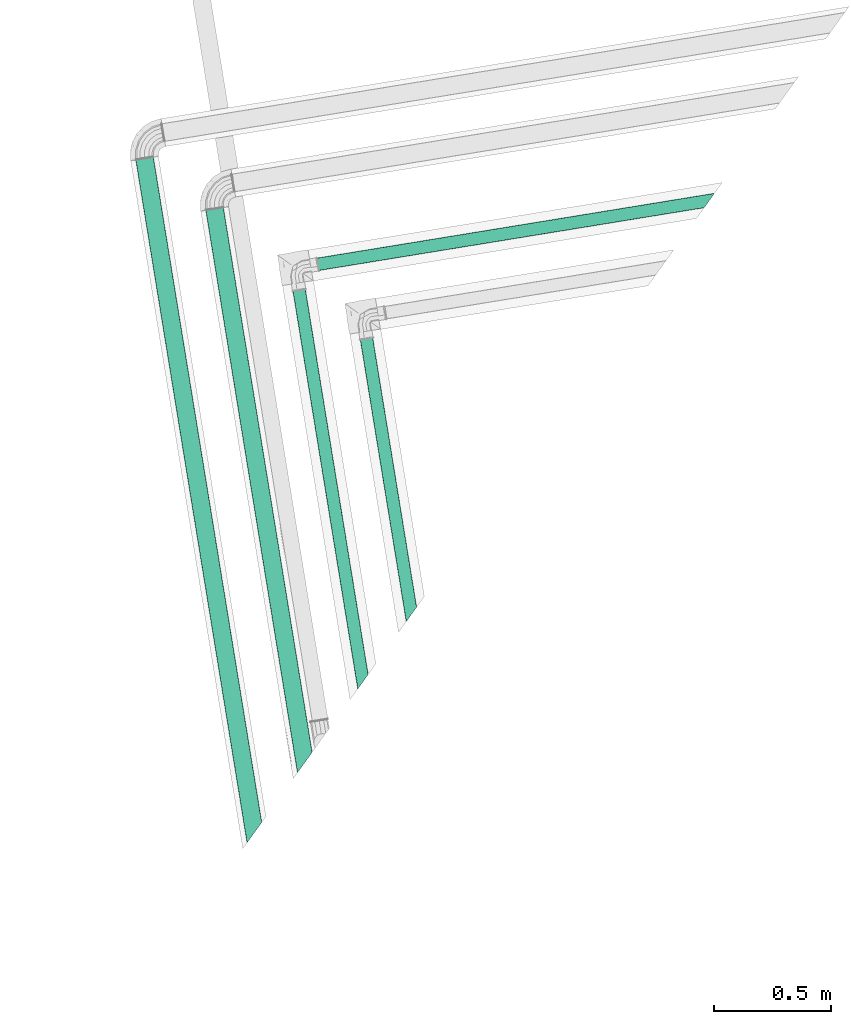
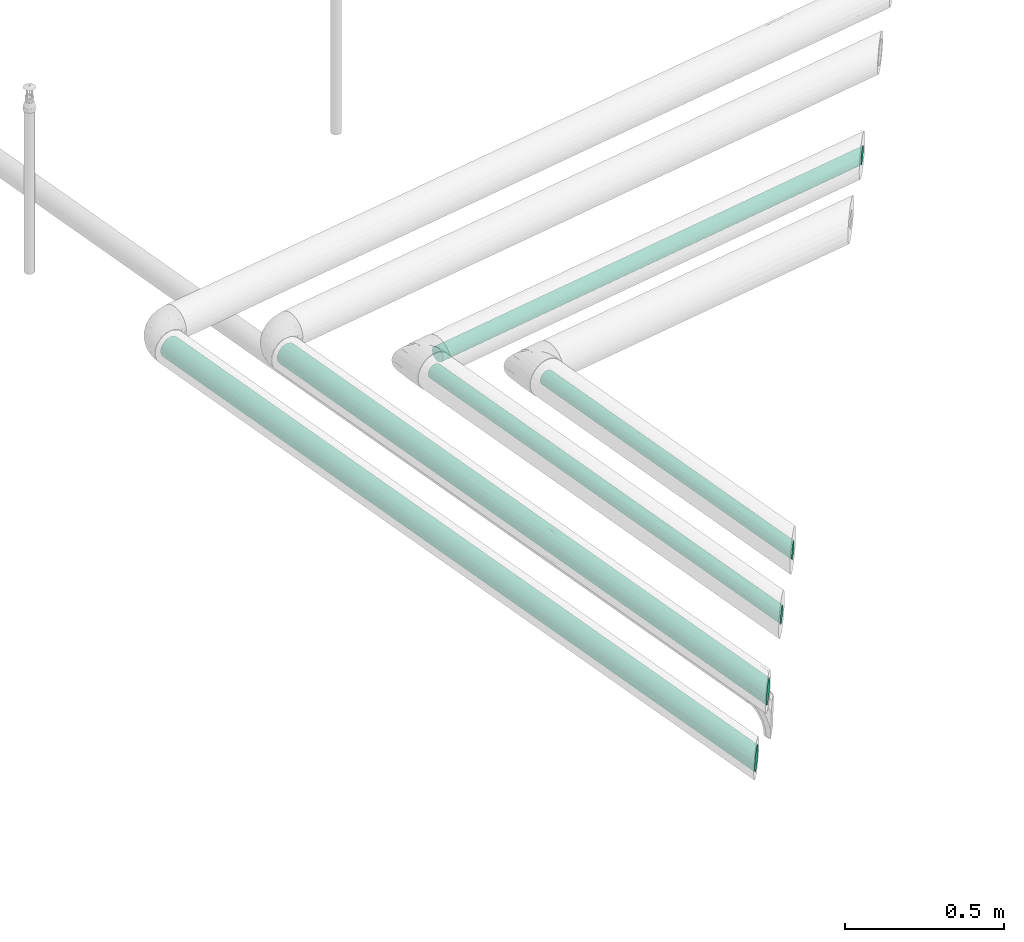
# One storey, part 41 of 46: 5 flow segments.
"""IFC2X3 building model written with IfcOpenShell, lengths in millimetres."""

from ifc_helpers import new_model, entity, si_unit, converted_unit, derived_unit, direction, frame, origin, origin_with_axes, place, context, subcontext, project, spatial, faceted_brep, material, type_object, element, save


model = new_model("IFC2X3")

# Units and contexts
model_context = context("Model", 3, precision=0.01, world=origin(), true_north=direction((6.12323399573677e-17, 1.0)))
plan_context = context("Plan", 3, precision=1e-05, world=origin_with_axes())
body_context = subcontext(model_context, "Body", "Model", "MODEL_VIEW")
ifc_project = project(units=[converted_unit("PLANEANGLEUNIT", "DEGREE", entity("IfcPositiveLengthMeasure", 0.0174532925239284), si_unit("PLANEANGLEUNIT", "RADIAN"), dimensions=[0, 0, 0, 0, 0, 0, 0]), si_unit("AREAUNIT", "SQUARE_METRE"), si_unit("LENGTHUNIT", "METRE", prefix="MILLI"), si_unit("MASSUNIT", "GRAM", prefix="KILO"), si_unit("POWERUNIT", "WATT"), si_unit("PRESSUREUNIT", "PASCAL", prefix="KILO"), si_unit("FORCEUNIT", "NEWTON", prefix="KILO"), si_unit("ELECTRICVOLTAGEUNIT", "VOLT"), si_unit("ELECTRICCURRENTUNIT", "AMPERE"), si_unit("THERMODYNAMICTEMPERATUREUNIT", "DEGREE_CELSIUS"), si_unit("TIMEUNIT", "SECOND"), si_unit("VOLUMEUNIT", "CUBIC_METRE"), derived_unit("LINEARVELOCITYUNIT", [(si_unit("LENGTHUNIT", "METRE"), 1), (si_unit("TIMEUNIT", "SECOND"), -1)]), derived_unit("VOLUMETRICFLOWRATEUNIT", [(si_unit("VOLUMEUNIT", "CUBIC_METRE"), 1), (si_unit("TIMEUNIT", "SECOND"), -1)]), derived_unit("THERMALTRANSMITTANCEUNIT", [(si_unit("POWERUNIT", "WATT"), 1), (si_unit("THERMODYNAMICTEMPERATUREUNIT", "KELVIN"), -1), (si_unit("AREAUNIT", "SQUARE_METRE"), -1)]), derived_unit("SOUNDPRESSUREUNIT", [(si_unit("PRESSUREUNIT", "PASCAL"), 1)])], contexts=[model_context, plan_context])

# Site, building, storey
site_placement = place(None, frame((-3.09682673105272e-06, 1.93776733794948e-05, 0.0), z_axis=(0.0, 0.0, 1.0), x_axis=(-0.160806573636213, 0.986985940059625, 0.0)))
site = spatial("IfcSite", under=ifc_project, at=site_placement, Name="Default", CompositionType="ELEMENT")
building_placement = place(site_placement, frame((0.0, 0.0, 0.0), z_axis=(0.0, 0.0, 1.0), x_axis=(1.0, -2.77555756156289e-17, 0.0)))
building = spatial("IfcBuilding", under=site, at=building_placement, Name="Bygning (endres i Project Information)", CompositionType="ELEMENT")
storey_placement = place(building_placement, frame((0.0, 0.0, 51360.0000000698), z_axis=(0.0, 0.0, 1.0), x_axis=(1.0, -2.77555756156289e-17, 0.0)))
storey = spatial("IfcBuildingStorey", under=building, at=storey_placement, Name="H01-Nivå D+0,36", CompositionType="ELEMENT", Elevation=51360.0000000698)

# Flow segments
ifc_material_1 = material(Name="3320.001")
pipe_segment_type_1 = type_object("IfcPipeSegmentType", Name="Pipe Types:Stålrør sveist og gjenget", PredefinedType="NOTDEFINED", material=ifc_material_1)
flow_segment_1_placement = place(storey_placement, frame((0.0, 0.0, 0.0), z_axis=(0.0, 0.0, 1.0), x_axis=(1.0, -2.77555756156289e-17, 0.0)))
element("IfcFlowSegment", 1, at=flow_segment_1_placement, inside=storey, type_object=pipe_segment_type_1, Name="Pipe Types:Stålrør sveist og gjenget", ObjectType="Pipe Types:Stålrør sveist og gjenget", context=body_context, shape_type="Brep", body=[
    faceted_brep([(997178.557751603, -346969.349156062, 3440.0), (997179.13581659, -346969.927221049, 3433.39268696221), (999606.867642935, -346969.927221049, 3433.39268696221), (999606.867642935, -346969.349156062, 3440.0), (997179.13581659, -346969.927221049, 3446.60731303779), (999606.867642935, -346969.927221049, 3446.60731303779), (997180.85244734, -346971.643851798, 3453.01386621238), (999606.867642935, -346971.643851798, 3453.01386621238), (997183.655484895, -346974.446889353, 3459.02499964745), (999606.867642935, -346974.446889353, 3459.02499964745), (997187.459760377, -346978.251164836, 3464.45806809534), (999606.867642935, -346978.251164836, 3464.45806809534), (997192.149682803, -346982.941087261, 3469.14799052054), (999606.867642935, -346982.941087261, 3469.14799052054), (997197.58275125, -346988.374155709, 3472.95226600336), (999606.867642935, -346988.374155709, 3472.95226600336), (997203.593884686, -346994.385289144, 3475.75530355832), (999606.867642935, -346994.385289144, 3475.75530355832), (997210.00043786, -347000.791842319, 3477.47193430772), (999606.867642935, -347000.791842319, 3477.47193430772), (997216.607750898, -347007.399155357, 3478.0499992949), (999606.867642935, -347007.399155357, 3478.0499992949), (997223.215063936, -347014.006468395, 3477.47193430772), (999606.867642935, -347014.006468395, 3477.47193430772), (997229.62161711, -347020.413021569, 3475.75530355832), (999606.867642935, -347020.413021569, 3475.75530355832), (997235.632750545, -347026.424155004, 3472.95226600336), (999606.867642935, -347026.424155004, 3472.95226600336), (997241.065818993, -347031.857223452, 3469.14799052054), (999606.867642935, -347031.857223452, 3469.14799052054), (997245.755741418, -347036.547145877, 3464.45806809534), (999606.867642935, -347036.547145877, 3464.45806809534), (997249.560016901, -347040.35142136, 3459.02499964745), (999606.867642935, -347040.35142136, 3459.02499964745), (997252.363054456, -347043.154458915, 3453.01386621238), (999606.867642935, -347043.154458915, 3453.01386621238), (997254.079685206, -347044.871089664, 3446.60731303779), (999606.867642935, -347044.871089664, 3446.60731303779), (997254.657750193, -347045.449154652, 3440.0), (999606.867642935, -347045.449154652, 3440.0), (997254.079685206, -347044.871089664, 3433.39268696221), (999606.867642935, -347044.871089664, 3433.39268696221), (997252.363054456, -347043.154458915, 3426.98613378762), (999606.867642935, -347043.154458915, 3426.98613378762), (997249.560016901, -347040.35142136, 3420.97500035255), (999606.867642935, -347040.35142136, 3420.97500035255), (997245.755741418, -347036.547145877, 3415.54193190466), (999606.867642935, -347036.547145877, 3415.54193190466), (997241.065818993, -347031.857223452, 3410.85200947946), (999606.867642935, -347031.857223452, 3410.85200947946), (997235.632750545, -347026.424155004, 3407.04773399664), (999606.867642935, -347026.424155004, 3407.04773399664), (997229.62161711, -347020.413021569, 3404.24469644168), (999606.867642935, -347020.413021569, 3404.24469644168), (997223.215063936, -347014.006468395, 3402.52806569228), (999606.867642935, -347014.006468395, 3402.52806569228), (997216.607750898, -347007.399155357, 3401.9500007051), (999606.867642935, -347007.399155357, 3401.9500007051), (997210.00043786, -347000.791842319, 3402.52806569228), (999606.867642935, -347000.791842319, 3402.52806569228), (997203.593884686, -346994.385289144, 3404.24469644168), (999606.867642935, -346994.385289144, 3404.24469644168), (997197.58275125, -346988.374155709, 3407.04773399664), (999606.867642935, -346988.374155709, 3407.04773399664), (997192.149682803, -346982.941087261, 3410.85200947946), (999606.867642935, -346982.941087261, 3410.85200947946), (997187.459760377, -346978.251164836, 3415.54193190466), (999606.867642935, -346978.251164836, 3415.54193190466), (997183.655484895, -346974.446889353, 3420.97500035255), (999606.867642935, -346974.446889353, 3420.97500035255), (997180.85244734, -346971.643851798, 3426.98613378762), (999606.867642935, -346971.643851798, 3426.98613378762)], [[[0, 1, 2, 3]], [[4, 0, 3, 5]], [[6, 4, 5, 7]], [[8, 6, 7, 9]], [[10, 8, 9, 11]], [[12, 10, 11, 13]], [[14, 12, 13, 15]], [[16, 14, 15, 17]], [[18, 16, 17, 19]], [[20, 18, 19, 21]], [[22, 20, 21, 23]], [[24, 22, 23, 25]], [[26, 24, 25, 27]], [[28, 26, 27, 29]], [[30, 28, 29, 31]], [[32, 30, 31, 33]], [[34, 32, 33, 35]], [[36, 34, 35, 37]], [[38, 36, 37, 39]], [[40, 38, 39, 41]], [[42, 40, 41, 43]], [[44, 42, 43, 45]], [[46, 44, 45, 47]], [[48, 46, 47, 49]], [[50, 48, 49, 51]], [[52, 50, 51, 53]], [[54, 52, 53, 55]], [[56, 54, 55, 57]], [[58, 56, 57, 59]], [[60, 58, 59, 61]], [[62, 60, 61, 63]], [[64, 62, 63, 65]], [[66, 64, 65, 67]], [[68, 66, 67, 69]], [[70, 68, 69, 71]], [[1, 70, 71, 2]], [[3, 2, 71, 69, 67, 65, 63, 61, 59, 57, 55, 53, 51, 49, 47, 45, 43, 41, 39, 37, 35, 33, 31, 29, 27, 25, 23, 21, 19, 17, 15, 13, 11, 9, 7, 5]], [[4, 6, 8, 10, 12, 14, 16, 18, 20, 22, 24, 26, 28, 30, 32, 34, 36, 38, 40, 42, 44, 46, 48, 50, 52, 54, 56, 58, 60, 62, 64, 66, 68, 70, 1, 0]]], orient=[[False], [False], [False], [False], [False], [False], [False], [False], [False], [False], [False], [False], [False], [False], [False], [False], [False], [False], [False], [False], [False], [False], [False], [False], [False], [False], [False], [False], [False], [False], [False], [False], [False], [False], [False], [False], [False], [False]]),
])
flow_segment_2_placement = place(storey_placement, frame((0.0, 0.0, 0.0), z_axis=(0.0, 0.0, 1.0), x_axis=(1.0, -2.77555756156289e-17, 0.0)))
element("IfcFlowSegment", 2, at=flow_segment_2_placement, inside=storey, type_object=pipe_segment_type_1, Name="Pipe Types:Stålrør sveist og gjenget", ObjectType="Pipe Types:Stålrør sveist og gjenget", context=body_context, shape_type="Brep", body=[
    faceted_brep([(996918.557751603, -346709.349156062, 3440.0), (996919.13581659, -346709.927221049, 3433.39268696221), (999866.867642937, -346709.927221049, 3433.39268696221), (999866.867642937, -346709.349156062, 3440.0), (996919.13581659, -346709.927221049, 3446.60731303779), (999866.867642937, -346709.927221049, 3446.60731303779), (996920.85244734, -346711.643851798, 3453.01386621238), (999866.867642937, -346711.643851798, 3453.01386621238), (996923.655484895, -346714.446889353, 3459.02499964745), (999866.867642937, -346714.446889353, 3459.02499964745), (996927.459760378, -346718.251164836, 3464.45806809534), (999866.867642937, -346718.251164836, 3464.45806809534), (996932.149682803, -346722.941087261, 3469.14799052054), (999866.867642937, -346722.941087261, 3469.14799052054), (996937.58275125, -346728.374155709, 3472.95226600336), (999866.867642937, -346728.374155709, 3472.95226600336), (996943.593884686, -346734.385289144, 3475.75530355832), (999866.867642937, -346734.385289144, 3475.75530355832), (996950.00043786, -346740.791842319, 3477.47193430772), (999866.867642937, -346740.791842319, 3477.47193430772), (996956.607750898, -346747.399155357, 3478.0499992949), (999866.867642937, -346747.399155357, 3478.0499992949), (996963.215063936, -346754.006468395, 3477.47193430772), (999866.867642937, -346754.006468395, 3477.47193430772), (996969.62161711, -346760.413021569, 3475.75530355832), (999866.867642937, -346760.413021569, 3475.75530355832), (996975.632750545, -346766.424155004, 3472.95226600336), (999866.867642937, -346766.424155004, 3472.95226600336), (996981.065818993, -346771.857223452, 3469.14799052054), (999866.867642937, -346771.857223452, 3469.14799052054), (996985.755741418, -346776.547145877, 3464.45806809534), (999866.867642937, -346776.547145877, 3464.45806809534), (996989.560016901, -346780.35142136, 3459.02499964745), (999866.867642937, -346780.35142136, 3459.02499964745), (996992.363054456, -346783.154458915, 3453.01386621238), (999866.867642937, -346783.154458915, 3453.01386621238), (996994.079685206, -346784.871089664, 3446.60731303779), (999866.867642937, -346784.871089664, 3446.60731303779), (996994.657750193, -346785.449154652, 3440.0), (999866.867642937, -346785.449154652, 3440.0), (996994.079685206, -346784.871089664, 3433.39268696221), (999866.867642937, -346784.871089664, 3433.39268696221), (996992.363054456, -346783.154458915, 3426.98613378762), (999866.867642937, -346783.154458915, 3426.98613378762), (996989.560016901, -346780.35142136, 3420.97500035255), (999866.867642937, -346780.35142136, 3420.97500035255), (996985.755741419, -346776.547145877, 3415.54193190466), (999866.867642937, -346776.547145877, 3415.54193190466), (996981.065818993, -346771.857223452, 3410.85200947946), (999866.867642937, -346771.857223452, 3410.85200947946), (996975.632750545, -346766.424155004, 3407.04773399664), (999866.867642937, -346766.424155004, 3407.04773399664), (996969.62161711, -346760.413021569, 3404.24469644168), (999866.867642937, -346760.413021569, 3404.24469644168), (996963.215063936, -346754.006468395, 3402.52806569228), (999866.867642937, -346754.006468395, 3402.52806569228), (996956.607750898, -346747.399155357, 3401.9500007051), (999866.867642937, -346747.399155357, 3401.9500007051), (996950.00043786, -346740.791842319, 3402.52806569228), (999866.867642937, -346740.791842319, 3402.52806569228), (996943.593884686, -346734.385289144, 3404.24469644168), (999866.867642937, -346734.385289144, 3404.24469644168), (996937.58275125, -346728.374155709, 3407.04773399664), (999866.867642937, -346728.374155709, 3407.04773399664), (996932.149682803, -346722.941087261, 3410.85200947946), (999866.867642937, -346722.941087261, 3410.85200947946), (996927.459760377, -346718.251164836, 3415.54193190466), (999866.867642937, -346718.251164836, 3415.54193190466), (996923.655484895, -346714.446889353, 3420.97500035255), (999866.867642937, -346714.446889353, 3420.97500035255), (996920.85244734, -346711.643851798, 3426.98613378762), (999866.867642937, -346711.643851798, 3426.98613378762)], [[[0, 1, 2, 3]], [[4, 0, 3, 5]], [[6, 4, 5, 7]], [[8, 6, 7, 9]], [[10, 8, 9, 11]], [[12, 10, 11, 13]], [[14, 12, 13, 15]], [[16, 14, 15, 17]], [[18, 16, 17, 19]], [[20, 18, 19, 21]], [[22, 20, 21, 23]], [[24, 22, 23, 25]], [[26, 24, 25, 27]], [[28, 26, 27, 29]], [[30, 28, 29, 31]], [[32, 30, 31, 33]], [[34, 32, 33, 35]], [[36, 34, 35, 37]], [[38, 36, 37, 39]], [[40, 38, 39, 41]], [[42, 40, 41, 43]], [[44, 42, 43, 45]], [[46, 44, 45, 47]], [[48, 46, 47, 49]], [[50, 48, 49, 51]], [[52, 50, 51, 53]], [[54, 52, 53, 55]], [[56, 54, 55, 57]], [[58, 56, 57, 59]], [[60, 58, 59, 61]], [[62, 60, 61, 63]], [[64, 62, 63, 65]], [[66, 64, 65, 67]], [[68, 66, 67, 69]], [[70, 68, 69, 71]], [[1, 70, 71, 2]], [[3, 2, 71, 69, 67, 65, 63, 61, 59, 57, 55, 53, 51, 49, 47, 45, 43, 41, 39, 37, 35, 33, 31, 29, 27, 25, 23, 21, 19, 17, 15, 13, 11, 9, 7, 5]], [[4, 6, 8, 10, 12, 14, 16, 18, 20, 22, 24, 26, 28, 30, 32, 34, 36, 38, 40, 42, 44, 46, 48, 50, 52, 54, 56, 58, 60, 62, 64, 66, 68, 70, 1, 0]]], orient=[[False], [False], [False], [False], [False], [False], [False], [False], [False], [False], [False], [False], [False], [False], [False], [False], [False], [False], [False], [False], [False], [False], [False], [False], [False], [False], [False], [False], [False], [False], [False], [False], [False], [False], [False], [False], [False], [False]]),
])
ifc_material_2 = material(Name="3200.003 Tur")
pipe_segment_type_2 = type_object("IfcPipeSegmentType", Name="Pipe Types:Pressfittingssystem MM", PredefinedType="NOTDEFINED", material=ifc_material_2)
flow_segment_3_placement = place(storey_placement, frame((0.0, 0.0, 0.0), z_axis=(0.0, 0.0, 1.0), x_axis=(1.0, -2.77555756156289e-17, 0.0)))
element("IfcFlowSegment", 3, at=flow_segment_3_placement, inside=storey, type_object=pipe_segment_type_2, Name="Pipe Types:Pressfittingssystem MM", ObjectType="Pipe Types:Pressfittingssystem MM", context=body_context, shape_type="Brep", body=[
    faceted_brep([(999276.40480841, -349067.196212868, 3440.0), (999276.814999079, -349067.606403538, 3435.31149919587), (999276.814999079, -347372.399155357, 3435.31149919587), (999276.40480841, -347372.399155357, 3440.0), (999276.814999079, -349067.606403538, 3444.68850080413), (999276.814999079, -347372.399155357, 3444.68850080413), (999278.033107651, -349068.82451211, 3449.23454388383), (999278.033107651, -347372.399155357, 3449.23454388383), (999280.022122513, -349070.813526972, 3453.50000002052), (999280.022122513, -347372.399155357, 3453.50000002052), (999282.721608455, -349073.513012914, 3457.35526548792), (999282.721608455, -347372.399155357, 3457.35526548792), (999286.049542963, -349076.840947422, 3460.68319999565), (999286.049542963, -347372.399155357, 3460.68319999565), (999289.90480843, -349080.696212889, 3463.38268593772), (999289.90480843, -347372.399155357, 3463.38268593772), (999294.170264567, -349084.961669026, 3465.37170079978), (999294.170264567, -347372.399155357, 3465.37170079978), (999298.716307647, -349089.507712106, 3466.58980937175), (999298.716307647, -347372.399155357, 3466.58980937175), (999303.404808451, -349094.19621291, 3467.00000004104), (999303.404808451, -347372.399155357, 3467.00000004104), (999308.093309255, -349098.884713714, 3466.58980937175), (999308.093309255, -347372.399155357, 3466.58980937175), (999312.639352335, -349103.430756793, 3465.37170079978), (999312.639352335, -347372.399155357, 3465.37170079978), (999316.904808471, -349107.69621293, 3463.38268593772), (999316.904808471, -347372.399155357, 3463.38268593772), (999320.760073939, -349111.551478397, 3460.68319999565), (999320.760073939, -347372.399155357, 3460.68319999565), (999324.088008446, -349114.879412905, 3457.35526548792), (999324.088008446, -347372.399155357, 3457.35526548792), (999326.787494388, -349117.578898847, 3453.50000002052), (999326.787494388, -347372.399155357, 3453.50000002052), (999328.776509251, -349119.567913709, 3449.23454388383), (999328.776509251, -347372.399155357, 3449.23454388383), (999329.994617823, -349120.786022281, 3444.68850080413), (999329.994617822, -347372.399155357, 3444.68850080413), (999330.404808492, -349121.196212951, 3440.0), (999330.404808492, -347372.399155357, 3440.0), (999329.994617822, -349120.786022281, 3435.31149919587), (999329.994617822, -347372.399155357, 3435.31149919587), (999328.776509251, -349119.567913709, 3430.76545611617), (999328.776509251, -347372.399155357, 3430.76545611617), (999326.787494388, -349117.578898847, 3426.49999997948), (999326.787494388, -347372.399155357, 3426.49999997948), (999324.088008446, -349114.879412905, 3422.64473451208), (999324.088008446, -347372.399155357, 3422.64473451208), (999320.760073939, -349111.551478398, 3419.31680000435), (999320.760073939, -347372.399155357, 3419.31680000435), (999316.904808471, -349107.69621293, 3416.61731406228), (999316.904808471, -347372.399155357, 3416.61731406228), (999312.639352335, -349103.430756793, 3414.62829920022), (999312.639352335, -347372.399155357, 3414.62829920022), (999308.093309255, -349098.884713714, 3413.41019062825), (999308.093309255, -347372.399155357, 3413.41019062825), (999303.404808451, -349094.19621291, 3412.99999995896), (999303.404808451, -347372.399155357, 3412.99999995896), (999298.716307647, -349089.507712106, 3413.41019062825), (999298.716307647, -347372.399155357, 3413.41019062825), (999294.170264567, -349084.961669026, 3414.62829920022), (999294.170264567, -347372.399155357, 3414.62829920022), (999289.90480843, -349080.696212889, 3416.61731406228), (999289.90480843, -347372.399155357, 3416.61731406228), (999286.049542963, -349076.840947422, 3419.31680000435), (999286.049542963, -347372.399155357, 3419.31680000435), (999282.721608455, -349073.513012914, 3422.64473451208), (999282.721608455, -347372.399155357, 3422.64473451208), (999280.022122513, -349070.813526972, 3426.49999997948), (999280.022122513, -347372.399155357, 3426.49999997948), (999278.033107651, -349068.82451211, 3430.76545611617), (999278.033107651, -347372.399155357, 3430.76545611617)], [[[0, 1, 2, 3]], [[4, 0, 3, 5]], [[6, 4, 5, 7]], [[8, 6, 7, 9]], [[10, 8, 9, 11]], [[12, 10, 11, 13]], [[14, 12, 13, 15]], [[16, 14, 15, 17]], [[18, 16, 17, 19]], [[20, 18, 19, 21]], [[22, 20, 21, 23]], [[24, 22, 23, 25]], [[26, 24, 25, 27]], [[28, 26, 27, 29]], [[30, 28, 29, 31]], [[32, 30, 31, 33]], [[34, 32, 33, 35]], [[36, 34, 35, 37]], [[38, 36, 37, 39]], [[40, 38, 39, 41]], [[42, 40, 41, 43]], [[44, 42, 43, 45]], [[46, 44, 45, 47]], [[48, 46, 47, 49]], [[50, 48, 49, 51]], [[52, 50, 51, 53]], [[54, 52, 53, 55]], [[56, 54, 55, 57]], [[58, 56, 57, 59]], [[60, 58, 59, 61]], [[62, 60, 61, 63]], [[64, 62, 63, 65]], [[66, 64, 65, 67]], [[68, 66, 67, 69]], [[70, 68, 69, 71]], [[1, 70, 71, 2]], [[3, 2, 71, 69, 67, 65, 63, 61, 59, 57, 55, 53, 51, 49, 47, 45, 43, 41, 39, 37, 35, 33, 31, 29, 27, 25, 23, 21, 19, 17, 15, 13, 11, 9, 7, 5]], [[4, 6, 8, 10, 12, 14, 16, 18, 20, 22, 24, 26, 28, 30, 32, 34, 36, 38, 40, 42, 44, 46, 48, 50, 52, 54, 56, 58, 60, 62, 64, 66, 68, 70, 1, 0]]], orient=[[False], [False], [False], [False], [False], [False], [False], [False], [False], [False], [False], [False], [False], [False], [False], [False], [False], [False], [False], [False], [False], [False], [False], [False], [False], [False], [False], [False], [False], [False], [False], [False], [False], [False], [False], [False], [False], [False]]),
])
flow_segment_4_placement = place(storey_placement, frame((0.0, 0.0, 0.0), z_axis=(0.0, 0.0, 1.0), x_axis=(1.0, -2.77555756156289e-17, 0.0)))
element("IfcFlowSegment", 4, at=flow_segment_4_placement, inside=storey, type_object=pipe_segment_type_2, Name="Pipe Types:Pressfittingssystem MM", ObjectType="Pipe Types:Pressfittingssystem MM", context=body_context, shape_type="Brep", body=[
    faceted_brep([(997489.607750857, -347280.399155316, 3440.0), (997490.017941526, -347280.809345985, 3435.31149919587), (999238.40480845, -347280.809345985, 3435.31149919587), (999238.40480845, -347280.399155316, 3440.0), (997490.017941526, -347280.809345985, 3444.68850080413), (999238.40480845, -347280.809345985, 3444.68850080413), (997491.236050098, -347282.027454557, 3449.23454388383), (999238.40480845, -347282.027454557, 3449.23454388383), (997493.22506496, -347284.016469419, 3453.50000002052), (999238.40480845, -347284.016469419, 3453.50000002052), (997495.924550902, -347286.715955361, 3457.35526548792), (999238.40480845, -347286.715955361, 3457.35526548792), (997499.25248541, -347290.043889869, 3460.68319999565), (999238.40480845, -347290.043889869, 3460.68319999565), (997503.107750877, -347293.899155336, 3463.38268593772), (999238.40480845, -347293.899155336, 3463.38268593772), (997507.373207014, -347298.164611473, 3465.37170079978), (999238.40480845, -347298.164611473, 3465.37170079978), (997511.919250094, -347302.710654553, 3466.58980937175), (999238.40480845, -347302.710654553, 3466.58980937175), (997516.607750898, -347307.399155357, 3467.00000004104), (999238.40480845, -347307.399155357, 3467.00000004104), (997521.296251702, -347312.087656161, 3466.58980937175), (999238.40480845, -347312.087656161, 3466.58980937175), (997525.842294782, -347316.633699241, 3465.37170079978), (999238.40480845, -347316.633699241, 3465.37170079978), (997530.107750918, -347320.899155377, 3463.38268593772), (999238.40480845, -347320.899155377, 3463.38268593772), (997533.963016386, -347324.754420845, 3460.68319999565), (999238.40480845, -347324.754420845, 3460.68319999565), (997537.290950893, -347328.082355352, 3457.35526548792), (999238.40480845, -347328.082355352, 3457.35526548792), (997539.990436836, -347330.781841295, 3453.50000002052), (999238.40480845, -347330.781841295, 3453.50000002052), (997541.979451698, -347332.770856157, 3449.23454388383), (999238.40480845, -347332.770856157, 3449.23454388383), (997543.19756027, -347333.988964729, 3444.68850080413), (999238.40480845, -347333.988964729, 3444.68850080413), (997543.607750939, -347334.399155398, 3440.0), (999238.40480845, -347334.399155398, 3440.0), (997543.19756027, -347333.988964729, 3435.31149919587), (999238.40480845, -347333.988964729, 3435.31149919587), (997541.979451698, -347332.770856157, 3430.76545611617), (999238.40480845, -347332.770856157, 3430.76545611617), (997539.990436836, -347330.781841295, 3426.49999997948), (999238.40480845, -347330.781841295, 3426.49999997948), (997537.290950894, -347328.082355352, 3422.64473451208), (999238.40480845, -347328.082355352, 3422.64473451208), (997533.963016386, -347324.754420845, 3419.31680000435), (999238.40480845, -347324.754420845, 3419.31680000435), (997530.107750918, -347320.899155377, 3416.61731406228), (999238.40480845, -347320.899155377, 3416.61731406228), (997525.842294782, -347316.633699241, 3414.62829920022), (999238.40480845, -347316.633699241, 3414.62829920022), (997521.296251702, -347312.087656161, 3413.41019062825), (999238.40480845, -347312.087656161, 3413.41019062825), (997516.607750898, -347307.399155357, 3412.99999995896), (999238.40480845, -347307.399155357, 3412.99999995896), (997511.919250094, -347302.710654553, 3413.41019062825), (999238.40480845, -347302.710654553, 3413.41019062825), (997507.373207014, -347298.164611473, 3414.62829920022), (999238.40480845, -347298.164611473, 3414.62829920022), (997503.107750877, -347293.899155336, 3416.61731406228), (999238.40480845, -347293.899155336, 3416.61731406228), (997499.25248541, -347290.043889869, 3419.31680000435), (999238.40480845, -347290.043889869, 3419.31680000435), (997495.924550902, -347286.715955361, 3422.64473451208), (999238.40480845, -347286.715955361, 3422.64473451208), (997493.22506496, -347284.016469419, 3426.49999997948), (999238.40480845, -347284.016469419, 3426.49999997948), (997491.236050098, -347282.027454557, 3430.76545611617), (999238.40480845, -347282.027454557, 3430.76545611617)], [[[0, 1, 2, 3]], [[4, 0, 3, 5]], [[6, 4, 5, 7]], [[8, 6, 7, 9]], [[10, 8, 9, 11]], [[12, 10, 11, 13]], [[14, 12, 13, 15]], [[16, 14, 15, 17]], [[18, 16, 17, 19]], [[20, 18, 19, 21]], [[22, 20, 21, 23]], [[24, 22, 23, 25]], [[26, 24, 25, 27]], [[28, 26, 27, 29]], [[30, 28, 29, 31]], [[32, 30, 31, 33]], [[34, 32, 33, 35]], [[36, 34, 35, 37]], [[38, 36, 37, 39]], [[40, 38, 39, 41]], [[42, 40, 41, 43]], [[44, 42, 43, 45]], [[46, 44, 45, 47]], [[48, 46, 47, 49]], [[50, 48, 49, 51]], [[52, 50, 51, 53]], [[54, 52, 53, 55]], [[56, 54, 55, 57]], [[58, 56, 57, 59]], [[60, 58, 59, 61]], [[62, 60, 61, 63]], [[64, 62, 63, 65]], [[66, 64, 65, 67]], [[68, 66, 67, 69]], [[70, 68, 69, 71]], [[1, 70, 71, 2]], [[3, 2, 71, 69, 67, 65, 63, 61, 59, 57, 55, 53, 51, 49, 47, 45, 43, 41, 39, 37, 35, 33, 31, 29, 27, 25, 23, 21, 19, 17, 15, 13, 11, 9, 7, 5]], [[4, 6, 8, 10, 12, 14, 16, 18, 20, 22, 24, 26, 28, 30, 32, 34, 36, 38, 40, 42, 44, 46, 48, 50, 52, 54, 56, 58, 60, 62, 64, 66, 68, 70, 1, 0]]], orient=[[False], [False], [False], [False], [False], [False], [False], [False], [False], [False], [False], [False], [False], [False], [False], [False], [False], [False], [False], [False], [False], [False], [False], [False], [False], [False], [False], [False], [False], [False], [False], [False], [False], [False], [False], [False], [False], [False]]),
])
flow_segment_5_placement = place(storey_placement, frame((0.0, 0.0, 0.0), z_axis=(0.0, 0.0, 1.0), x_axis=(1.0, -2.77555756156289e-17, 0.0)))
element("IfcFlowSegment", 5, at=flow_segment_5_placement, inside=storey, type_object=pipe_segment_type_2, Name="Pipe Types:Pressfittingssystem MM", ObjectType="Pipe Types:Pressfittingssystem MM", context=body_context, shape_type="Brep", body=[
    faceted_brep([(997739.639785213, -347530.431189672, 3440.0), (997740.049975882, -347530.841380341, 3435.31149919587), (998988.436842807, -347530.841380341, 3435.31149919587), (998988.436842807, -347530.431189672, 3440.0), (997740.049975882, -347530.841380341, 3444.68850080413), (998988.436842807, -347530.841380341, 3444.68850080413), (997741.268084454, -347532.059488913, 3449.23454388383), (998988.436842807, -347532.059488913, 3449.23454388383), (997743.257099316, -347534.048503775, 3453.50000002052), (998988.436842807, -347534.048503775, 3453.50000002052), (997745.956585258, -347536.747989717, 3457.35526548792), (998988.436842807, -347536.747989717, 3457.35526548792), (997749.284519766, -347540.075924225, 3460.68319999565), (998988.436842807, -347540.075924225, 3460.68319999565), (997753.139785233, -347543.931189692, 3463.38268593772), (998988.436842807, -347543.931189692, 3463.38268593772), (997757.40524137, -347548.196645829, 3465.37170079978), (998988.436842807, -347548.196645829, 3465.37170079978), (997761.95128445, -347552.742688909, 3466.58980937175), (998988.436842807, -347552.742688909, 3466.58980937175), (997766.639785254, -347557.431189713, 3467.00000004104), (998988.436842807, -347557.431189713, 3467.00000004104), (997771.328286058, -347562.119690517, 3466.58980937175), (998988.436842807, -347562.119690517, 3466.58980937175), (997775.874329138, -347566.665733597, 3465.37170079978), (998988.436842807, -347566.665733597, 3465.37170079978), (997780.139785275, -347570.931189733, 3463.38268593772), (998988.436842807, -347570.931189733, 3463.38268593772), (997783.995050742, -347574.786455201, 3460.68319999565), (998988.436842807, -347574.786455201, 3460.68319999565), (997787.32298525, -347578.114389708, 3457.35526548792), (998988.436842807, -347578.114389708, 3457.35526548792), (997790.022471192, -347580.813875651, 3453.50000002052), (998988.436842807, -347580.813875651, 3453.50000002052), (997792.011486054, -347582.802890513, 3449.23454388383), (998988.436842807, -347582.802890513, 3449.23454388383), (997793.229594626, -347584.020999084, 3444.68850080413), (998988.436842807, -347584.020999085, 3444.68850080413), (997793.639785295, -347584.431189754, 3440.0), (998988.436842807, -347584.431189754, 3440.0), (997793.229594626, -347584.020999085, 3435.31149919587), (998988.436842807, -347584.020999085, 3435.31149919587), (997792.011486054, -347582.802890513, 3430.76545611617), (998988.436842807, -347582.802890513, 3430.76545611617), (997790.022471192, -347580.813875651, 3426.49999997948), (998988.436842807, -347580.813875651, 3426.49999997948), (997787.32298525, -347578.114389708, 3422.64473451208), (998988.436842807, -347578.114389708, 3422.64473451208), (997783.995050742, -347574.786455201, 3419.31680000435), (998988.436842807, -347574.786455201, 3419.31680000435), (997780.139785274, -347570.931189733, 3416.61731406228), (998988.436842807, -347570.931189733, 3416.61731406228), (997775.874329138, -347566.665733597, 3414.62829920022), (998988.436842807, -347566.665733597, 3414.62829920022), (997771.328286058, -347562.119690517, 3413.41019062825), (998988.436842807, -347562.119690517, 3413.41019062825), (997766.639785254, -347557.431189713, 3412.99999995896), (998988.436842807, -347557.431189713, 3412.99999995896), (997761.95128445, -347552.742688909, 3413.41019062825), (998988.436842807, -347552.742688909, 3413.41019062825), (997757.40524137, -347548.196645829, 3414.62829920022), (998988.436842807, -347548.196645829, 3414.62829920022), (997753.139785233, -347543.931189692, 3416.61731406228), (998988.436842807, -347543.931189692, 3416.61731406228), (997749.284519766, -347540.075924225, 3419.31680000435), (998988.436842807, -347540.075924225, 3419.31680000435), (997745.956585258, -347536.747989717, 3422.64473451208), (998988.436842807, -347536.747989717, 3422.64473451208), (997743.257099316, -347534.048503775, 3426.49999997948), (998988.436842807, -347534.048503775, 3426.49999997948), (997741.268084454, -347532.059488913, 3430.76545611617), (998988.436842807, -347532.059488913, 3430.76545611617)], [[[0, 1, 2, 3]], [[4, 0, 3, 5]], [[6, 4, 5, 7]], [[8, 6, 7, 9]], [[10, 8, 9, 11]], [[12, 10, 11, 13]], [[14, 12, 13, 15]], [[16, 14, 15, 17]], [[18, 16, 17, 19]], [[20, 18, 19, 21]], [[22, 20, 21, 23]], [[24, 22, 23, 25]], [[26, 24, 25, 27]], [[28, 26, 27, 29]], [[30, 28, 29, 31]], [[32, 30, 31, 33]], [[34, 32, 33, 35]], [[36, 34, 35, 37]], [[38, 36, 37, 39]], [[40, 38, 39, 41]], [[42, 40, 41, 43]], [[44, 42, 43, 45]], [[46, 44, 45, 47]], [[48, 46, 47, 49]], [[50, 48, 49, 51]], [[52, 50, 51, 53]], [[54, 52, 53, 55]], [[56, 54, 55, 57]], [[58, 56, 57, 59]], [[60, 58, 59, 61]], [[62, 60, 61, 63]], [[64, 62, 63, 65]], [[66, 64, 65, 67]], [[68, 66, 67, 69]], [[70, 68, 69, 71]], [[1, 70, 71, 2]], [[3, 2, 71, 69, 67, 65, 63, 61, 59, 57, 55, 53, 51, 49, 47, 45, 43, 41, 39, 37, 35, 33, 31, 29, 27, 25, 23, 21, 19, 17, 15, 13, 11, 9, 7, 5]], [[4, 6, 8, 10, 12, 14, 16, 18, 20, 22, 24, 26, 28, 30, 32, 34, 36, 38, 40, 42, 44, 46, 48, 50, 52, 54, 56, 58, 60, 62, 64, 66, 68, 70, 1, 0]]], orient=[[False], [False], [False], [False], [False], [False], [False], [False], [False], [False], [False], [False], [False], [False], [False], [False], [False], [False], [False], [False], [False], [False], [False], [False], [False], [False], [False], [False], [False], [False], [False], [False], [False], [False], [False], [False], [False], [False]]),
])

save(model, "model.ifc")
